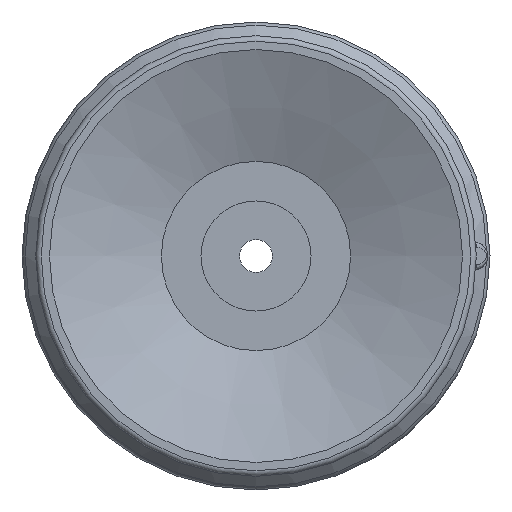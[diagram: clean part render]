
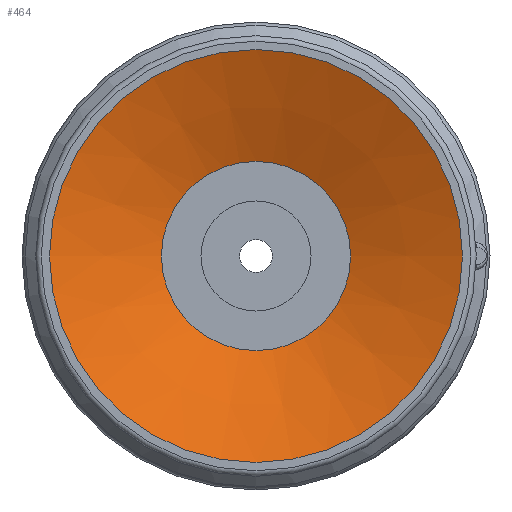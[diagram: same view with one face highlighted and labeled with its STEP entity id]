
A CAD part, front view. The second image highlights one B-rep face of the part: STEP entity #464.
In plain terms, the highlighted conical face has half-angle 67.5 degrees and reference radius 3.437 mm.
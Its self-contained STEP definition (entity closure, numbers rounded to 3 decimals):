
#464=ADVANCED_FACE('',(#629,#630),#631,.F.);
#629=FACE_BOUND('',#1828,.T.);
#630=FACE_OUTER_BOUND('',#1829,.T.);
#631=CONICAL_SURFACE('',#1830,3.437,1.178);
#1828=EDGE_LOOP('',(#2188));
#1829=EDGE_LOOP('',(#2189));
#1830=AXIS2_PLACEMENT_3D('',#2190,#2191,#2192);
#2188=ORIENTED_EDGE('',*,*,#2342,.F.);
#2189=ORIENTED_EDGE('',*,*,#2354,.T.);
#2190=CARTESIAN_POINT('',(0.0,0.0,1.683));
#2191=DIRECTION('',(0.0,0.,-1.0));
#2192=DIRECTION('',(0.0,1.0,0.));
#2342=EDGE_CURVE('',#2509,#2509,#2510,.T.);
#2354=EDGE_CURVE('',#2533,#2533,#2534,.T.);
#2509=VERTEX_POINT('',#2934);
#2510=CIRCLE('',#2935,3.437);
#2533=VERTEX_POINT('',#2958);
#2534=CIRCLE('',#2959,7.5);
#2934=CARTESIAN_POINT('',(-3.437,0.0,1.683));
#2935=AXIS2_PLACEMENT_3D('',#3099,#3100,#3101);
#2958=CARTESIAN_POINT('',(-7.5,0.0,0.));
#2959=AXIS2_PLACEMENT_3D('',#3135,#3136,#3137);
#3099=CARTESIAN_POINT('',(0.0,0.0,1.683));
#3100=DIRECTION('',(0.0,0.,-1.0));
#3101=DIRECTION('',(0.0,1.0,0.));
#3135=CARTESIAN_POINT('',(0.0,0.0,0.));
#3136=DIRECTION('',(0.0,0.,-1.0));
#3137=DIRECTION('',(0.0,1.0,0.));
